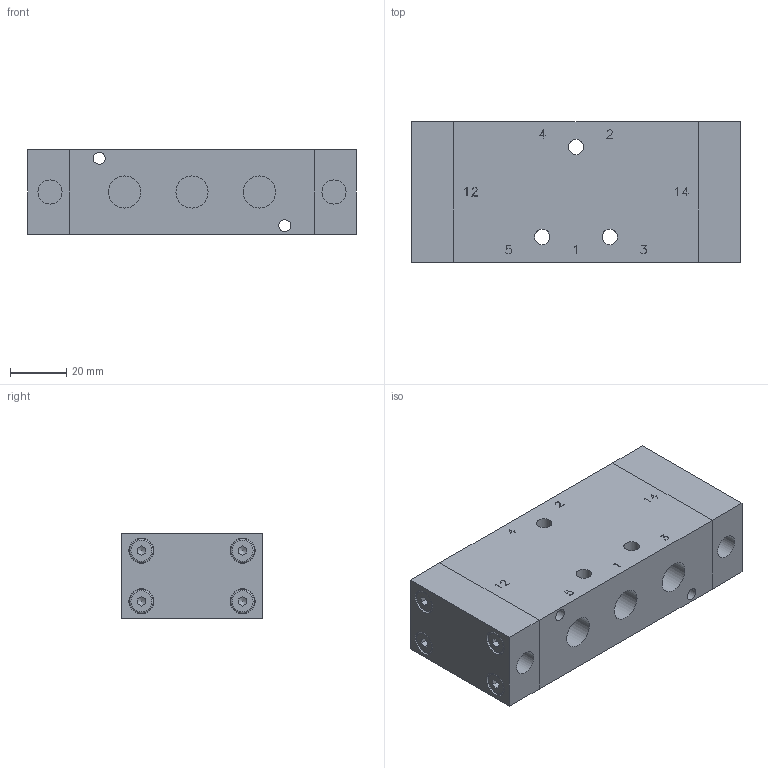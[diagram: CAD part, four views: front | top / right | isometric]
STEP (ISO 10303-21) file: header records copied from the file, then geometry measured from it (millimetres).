
FILE_DESCRIPTION (( 'STEP AP214' ), '1' );
FILE_NAME ('PKX-10-530_Airtec.step', '2019-01-07T16:09:27', ( '' ), ( '' ), 'SwSTEP 2.0', 'SolidWorks 2010', '' );
FILE_SCHEMA (( 'AUTOMOTIVE_DESIGN' ));
Length unit declared in the file: millimetre
Products named in the file (1): PKX-10-530_Airtec
Bounding box: 117 x 50 x 30 mm (x, y, z)
Volume: 163611.1 mm3; surface area: 29139.8 mm2
Topology: 1 solids, 1 shells, 497 faces, 1334 edges, 884 vertices
Faces by surface type: plane 453, cylinder 28, torus 8, cone 8
Full cylindrical faces by diameter (mm): 4.3 x2, 5.5 x3, 8.5 x8, 8.566 x2, 8.9 x8, 11.445 x5
Entity records: 15843 total; most frequent: CARTESIAN_POINT 2736, ORIENTED_EDGE 2548, DIRECTION 2286, EDGE_CURVE 1274, VECTOR 1162, LINE 1162, VERTEX_POINT 868, EDGE_LOOP 596
